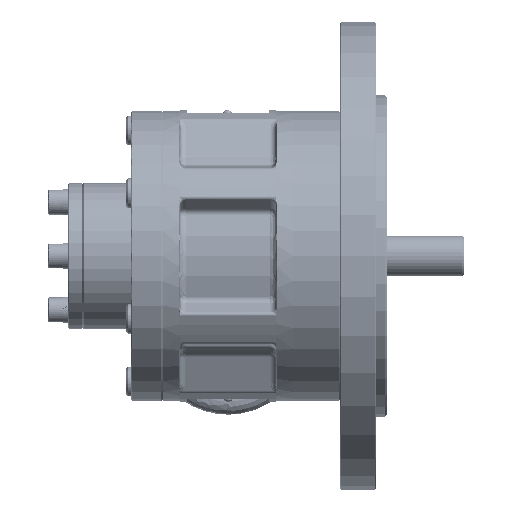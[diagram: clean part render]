
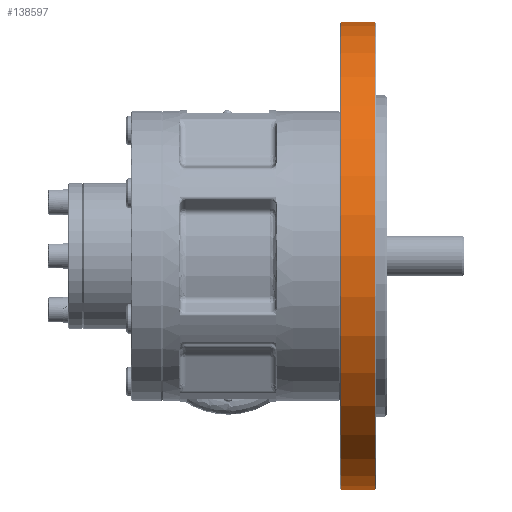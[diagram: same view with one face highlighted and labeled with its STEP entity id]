
A CAD part, front view. The second image highlights one B-rep face of the part: STEP entity #138597.
In plain terms, the highlighted cylindrical face has radius 80 mm (diameter 160 mm), a partial arc.
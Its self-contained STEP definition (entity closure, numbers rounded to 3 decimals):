
#2135 = VERTEX_POINT ( 'NONE', #117291 ) ;
#3453 = VERTEX_POINT ( 'NONE', #11018 ) ;
#8690 = AXIS2_PLACEMENT_3D ( 'NONE', #169673, #128444, #115886 ) ;
#11018 = CARTESIAN_POINT ( 'NONE',  ( 38.8, 3.97, -80. ) ) ;
#14259 = VERTEX_POINT ( 'NONE', #26851 ) ;
#20563 = DIRECTION ( 'NONE',  ( -1., 0., 0. ) ) ;
#26851 = CARTESIAN_POINT ( 'NONE',  ( 38.8, 3.97, 80. ) ) ;
#26941 = DIRECTION ( 'NONE',  ( -1., 0., 0. ) ) ;
#27459 = EDGE_CURVE ( 'NONE', #2135, #14259, #127483, .T. ) ;
#28801 = ORIENTED_EDGE ( 'NONE', *, *, #113096, .F. ) ;
#29337 = EDGE_CURVE ( 'NONE', #3453, #14259, #141761, .T. ) ;
#31576 = DIRECTION ( 'NONE',  ( -1., 0., 0. ) ) ;
#34300 = CARTESIAN_POINT ( 'NONE',  ( 36.3, 3.97, -80. ) ) ;
#35471 = VECTOR ( 'NONE', #26941, 1000. ) ;
#37883 = CIRCLE ( 'NONE', #175925, 80. ) ;
#47472 = AXIS2_PLACEMENT_3D ( 'NONE', #173062, #20563, #130051 ) ;
#48594 = VECTOR ( 'NONE', #119783, 1000. ) ;
#53541 = ORIENTED_EDGE ( 'NONE', *, *, #29337, .F. ) ;
#57305 = DIRECTION ( 'NONE',  ( 0., 0., 1. ) ) ;
#95596 = LINE ( 'NONE', #34300, #48594 ) ;
#108621 = VERTEX_POINT ( 'NONE', #177547 ) ;
#110004 = EDGE_CURVE ( 'NONE', #108621, #2135, #37883, .T. ) ;
#113096 = EDGE_CURVE ( 'NONE', #108621, #3453, #95596, .T. ) ;
#113510 = CARTESIAN_POINT ( 'NONE',  ( 50.1, 3.97, 0. ) ) ;
#115886 = DIRECTION ( 'NONE',  ( 0., 0., 1. ) ) ;
#117291 = CARTESIAN_POINT ( 'NONE',  ( 50.1, 3.97, 80. ) ) ;
#119783 = DIRECTION ( 'NONE',  ( -1., 0., 0. ) ) ;
#125786 = ORIENTED_EDGE ( 'NONE', *, *, #27459, .T. ) ;
#127483 = LINE ( 'NONE', #150740, #35471 ) ;
#128444 = DIRECTION ( 'NONE',  ( -1., 0., 0. ) ) ;
#130051 = DIRECTION ( 'NONE',  ( 0., 0., 1. ) ) ;
#138597 = ADVANCED_FACE ( 'NONE', ( #174321 ), #168013, .T. ) ;
#141761 = CIRCLE ( 'NONE', #47472, 80. ) ;
#146493 = EDGE_LOOP ( 'NONE', ( #28801, #149454, #125786, #53541 ) ) ;
#149454 = ORIENTED_EDGE ( 'NONE', *, *, #110004, .T. ) ;
#150740 = CARTESIAN_POINT ( 'NONE',  ( 36.3, 3.97, 80. ) ) ;
#168013 = CYLINDRICAL_SURFACE ( 'NONE', #8690, 80. ) ;
#169673 = CARTESIAN_POINT ( 'NONE',  ( 36.3, 3.97, 0. ) ) ;
#173062 = CARTESIAN_POINT ( 'NONE',  ( 38.8, 3.97, 0. ) ) ;
#174321 = FACE_OUTER_BOUND ( 'NONE', #146493, .T. ) ;
#175925 = AXIS2_PLACEMENT_3D ( 'NONE', #113510, #31576, #57305 ) ;
#177547 = CARTESIAN_POINT ( 'NONE',  ( 50.1, 3.97, -80. ) ) ;
